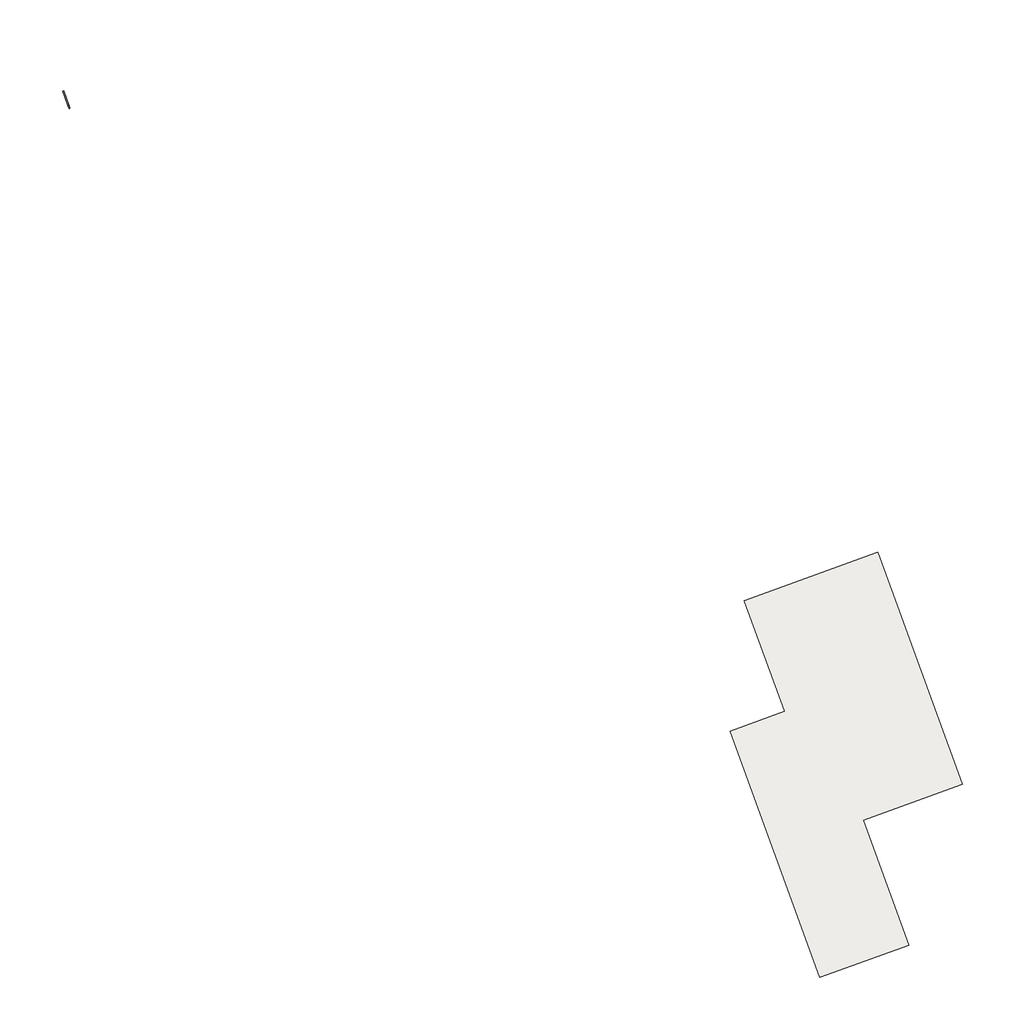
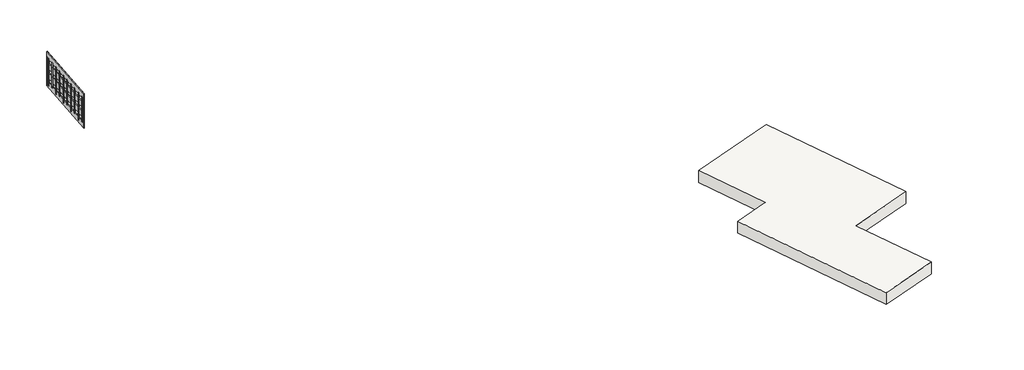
# One storey: 1 railing, 1 slab.
"""IFC4 building model written with IfcOpenShell, lengths in millimetres."""

from ifc_helpers import new_model, si_unit, frame, origin, place, context, project, spatial, polyline, outline, extrude, transform, mapped, element, save
from components import railing_900mm_69d3f744

model = new_model("IFC4")

# Units and contexts
model_context = context("Model", 3, world=origin())
ifc_project = project(units=[si_unit("LENGTHUNIT", "METRE", prefix="MILLI")], contexts=[model_context])

# Site, building, storey
site = spatial("IfcSite", under=ifc_project)
building = spatial("IfcBuilding", under=site)
storey = spatial("IfcBuildingStorey", under=building, Name="0.5 kjellar hovedbygg", Elevation=500.0)

# Railing
placement = place(None, origin())
railing_900mm_shape = railing_900mm_69d3f744(model_context)
element("IfcRailing", 1, ObjectType="900mm", at=placement, inside=storey, context=model_context, shape_type="MappedRepresentation", body=[
    mapped(railing_900mm_shape, transform((0.0, 0.0, 0.0), x_axis=(1.0, 0.0, 0.0), y_axis=(0.0, 1.0, 0.0), z_axis=(0.0, 0.0, 1.0))),
])

# Slab
element("IfcSlab", 2, ObjectType="Dekker Betong 70 Isolert 300mm", at=placement, inside=storey, context=model_context, shape_type="SweptSolid", body=[
    extrude(outline(polyline([(32115.6828253, 16071.2764368), (34659.4441806, 16997.1298532), (36265.7318894, 12583.890644), (34381.2723005, 11898.0035994), (35246.8171389, 9519.9381685), (33553.853419, 8903.749853), (31847.1199739, 13592.9621107), (32880.7818375, 13969.1841772), (32115.6828253, 16071.2764368)])), frame((0.0, 0.0, 960.0), z_axis=(0.0, 0.0, 1.0), x_axis=(1.0, 0.0, 0.0)), (0.0, 0.0, 1.0), 370.0),
])

save(model, "model.ifc")
